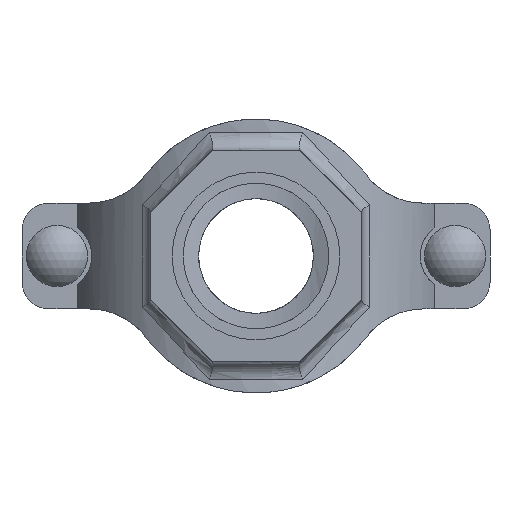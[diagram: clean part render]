
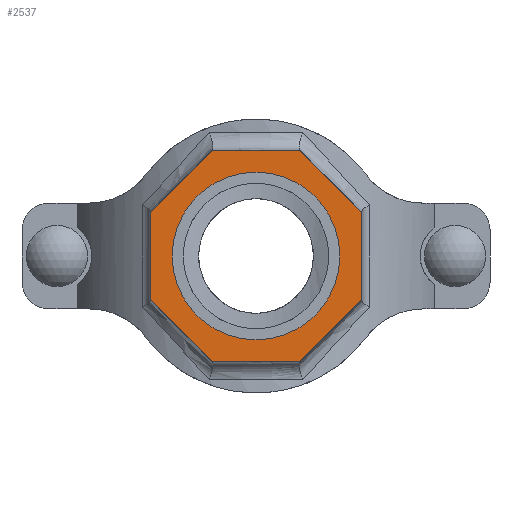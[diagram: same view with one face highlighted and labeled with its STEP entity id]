
A CAD part, front view. The second image highlights one B-rep face of the part: STEP entity #2537.
In plain terms, the highlighted planar face has unit normal (0, -1, 0) as drawn and (0, 1, 0) by its records, which use the part's own axes.
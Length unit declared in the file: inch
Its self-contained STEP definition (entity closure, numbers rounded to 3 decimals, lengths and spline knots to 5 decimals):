
#186=FACE_BOUND('',#457,.T.);
#305=FACE_OUTER_BOUND('',#456,.T.);
#456=EDGE_LOOP('',(#2128,#2129,#2130,#2131,#2132,#2133,#2134,#2135));
#457=EDGE_LOOP('',(#2136));
#594=LINE('',#4785,#780);
#597=LINE('',#4790,#783);
#599=LINE('',#4794,#785);
#601=LINE('',#4798,#787);
#637=LINE('',#5255,#823);
#639=LINE('',#5259,#825);
#641=LINE('',#5263,#827);
#643=LINE('',#5266,#829);
#780=VECTOR('',#3278,0.3937);
#783=VECTOR('',#3283,0.3937);
#785=VECTOR('',#3287,0.3937);
#787=VECTOR('',#3291,0.3937);
#823=VECTOR('',#3419,0.3937);
#825=VECTOR('',#3423,0.3937);
#827=VECTOR('',#3427,0.3937);
#829=VECTOR('',#3431,0.3937);
#919=CIRCLE('',#2802,1.1875);
#1097=VERTEX_POINT('',#4782);
#1098=VERTEX_POINT('',#4784);
#1099=VERTEX_POINT('',#4788);
#1100=VERTEX_POINT('',#4792);
#1101=VERTEX_POINT('',#4796);
#1136=VERTEX_POINT('',#5084);
#1158=VERTEX_POINT('',#5254);
#1159=VERTEX_POINT('',#5258);
#1160=VERTEX_POINT('',#5262);
#1408=EDGE_CURVE('',#1098,#1097,#594,.T.);
#1411=EDGE_CURVE('',#1097,#1099,#597,.T.);
#1413=EDGE_CURVE('',#1099,#1100,#599,.T.);
#1415=EDGE_CURVE('',#1100,#1101,#601,.T.);
#1461=EDGE_CURVE('',#1136,#1136,#919,.T.);
#1491=EDGE_CURVE('',#1158,#1098,#637,.T.);
#1493=EDGE_CURVE('',#1159,#1158,#639,.T.);
#1495=EDGE_CURVE('',#1160,#1159,#641,.T.);
#1497=EDGE_CURVE('',#1101,#1160,#643,.T.);
#2128=ORIENTED_EDGE('',*,*,#1497,.T.);
#2129=ORIENTED_EDGE('',*,*,#1495,.T.);
#2130=ORIENTED_EDGE('',*,*,#1493,.T.);
#2131=ORIENTED_EDGE('',*,*,#1491,.T.);
#2132=ORIENTED_EDGE('',*,*,#1408,.T.);
#2133=ORIENTED_EDGE('',*,*,#1411,.T.);
#2134=ORIENTED_EDGE('',*,*,#1413,.T.);
#2135=ORIENTED_EDGE('',*,*,#1415,.T.);
#2136=ORIENTED_EDGE('',*,*,#1461,.T.);
#2278=PLANE('',#2823);
#2537=ADVANCED_FACE('',(#305,#186),#2278,.T.);
#2802=AXIS2_PLACEMENT_3D('',#5085,#3369,#3370);
#2823=AXIS2_PLACEMENT_3D('',#5267,#3432,#3433);
#3278=DIRECTION('',(0.,0.,1.));
#3283=DIRECTION('',(0.707,0.,0.707));
#3287=DIRECTION('',(1.,0.,0.));
#3291=DIRECTION('',(0.707,0.,-0.707));
#3369=DIRECTION('center_axis',(0.,-1.,0.));
#3370=DIRECTION('ref_axis',(-1.,0.,0.));
#3419=DIRECTION('',(-0.707,0.,0.707));
#3423=DIRECTION('',(-1.,0.,0.));
#3427=DIRECTION('',(-0.707,0.,-0.707));
#3431=DIRECTION('',(0.,0.,-1.));
#3432=DIRECTION('center_axis',(0.,1.,0.));
#3433=DIRECTION('ref_axis',(0.,0.,1.));
#4782=CARTESIAN_POINT('',(-1.5,4.,0.62132));
#4784=CARTESIAN_POINT('',(-1.5,4.,-0.62132));
#4785=CARTESIAN_POINT('',(-1.5,4.,0.62132));
#4788=CARTESIAN_POINT('',(-0.62132,4.,1.5));
#4790=CARTESIAN_POINT('',(-0.62132,4.,1.5));
#4792=CARTESIAN_POINT('',(0.62132,4.,1.5));
#4794=CARTESIAN_POINT('',(0.62132,4.,1.5));
#4796=CARTESIAN_POINT('',(1.5,4.,0.62132));
#4798=CARTESIAN_POINT('',(1.5,4.,0.62132));
#5084=CARTESIAN_POINT('',(1.1875,4.,0.));
#5085=CARTESIAN_POINT('Origin',(0.,4.,0.));
#5254=CARTESIAN_POINT('',(-0.62132,4.,-1.5));
#5255=CARTESIAN_POINT('',(-1.5,4.,-0.62132));
#5258=CARTESIAN_POINT('',(0.62132,4.,-1.5));
#5259=CARTESIAN_POINT('',(-0.62132,4.,-1.5));
#5262=CARTESIAN_POINT('',(1.5,4.,-0.62132));
#5263=CARTESIAN_POINT('',(0.62132,4.,-1.5));
#5266=CARTESIAN_POINT('',(1.5,4.,-0.62132));
#5267=CARTESIAN_POINT('Origin',(0.,4.,0.));
